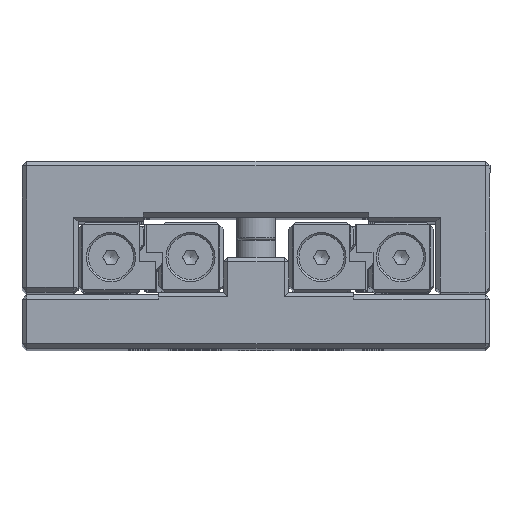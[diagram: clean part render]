
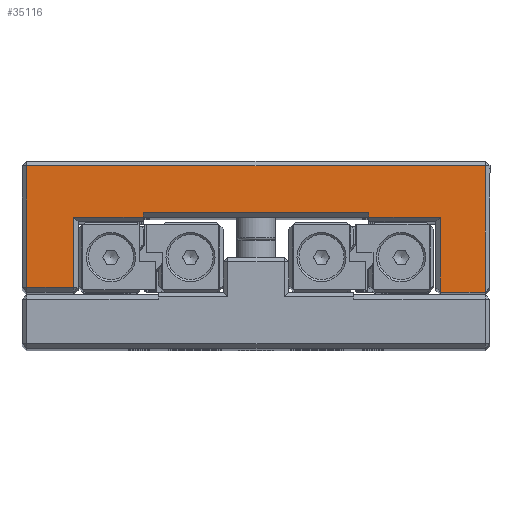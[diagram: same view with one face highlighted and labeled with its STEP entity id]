
A CAD part, top view. The second image highlights one B-rep face of the part: STEP entity #35116.
In plain terms, the highlighted planar face has unit normal (0, 0, 1).
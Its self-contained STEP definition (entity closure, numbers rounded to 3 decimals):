
#2067=PLANE('',#37890);
#3925=FACE_OUTER_BOUND('',#5999,.T.);
#5999=EDGE_LOOP('',(#28585,#28586,#28587,#28588,#28589,#28590,#28591,#28592,
#28593,#28594,#28595,#28596));
#8514=LINE('',#54323,#11668);
#8571=LINE('',#54711,#11725);
#8632=LINE('',#55129,#11786);
#8728=LINE('',#55440,#11882);
#8732=LINE('',#55448,#11886);
#8741=LINE('',#55463,#11895);
#8745=LINE('',#55471,#11899);
#8760=LINE('',#55497,#11914);
#8763=LINE('',#55501,#11917);
#8782=LINE('',#55540,#11936);
#8785=LINE('',#55545,#11939);
#8786=LINE('',#55546,#11940);
#11668=VECTOR('',#43594,10.);
#11725=VECTOR('',#44013,10.);
#11786=VECTOR('',#44326,10.);
#11882=VECTOR('',#44566,10.);
#11886=VECTOR('',#44574,10.);
#11895=VECTOR('',#44589,10.);
#11899=VECTOR('',#44595,10.);
#11914=VECTOR('',#44620,10.);
#11917=VECTOR('',#44625,10.);
#11936=VECTOR('',#44678,10.);
#11939=VECTOR('',#44685,10.);
#11940=VECTOR('',#44686,10.);
#15850=VERTEX_POINT('',#54319);
#15852=VERTEX_POINT('',#54322);
#15985=VERTEX_POINT('',#54707);
#15987=VERTEX_POINT('',#54710);
#16110=VERTEX_POINT('',#55118);
#16113=VERTEX_POINT('',#55127);
#16208=VERTEX_POINT('',#55439);
#16209=VERTEX_POINT('',#55446);
#16210=VERTEX_POINT('',#55447);
#16213=VERTEX_POINT('',#55462);
#16216=VERTEX_POINT('',#55469);
#16222=VERTEX_POINT('',#55495);
#20044=EDGE_CURVE('',#15852,#15850,#8514,.T.);
#20226=EDGE_CURVE('',#15987,#15985,#8571,.T.);
#20405=EDGE_CURVE('',#16110,#16113,#8632,.T.);
#20536=EDGE_CURVE('',#15852,#16208,#8728,.T.);
#20540=EDGE_CURVE('',#16209,#16210,#8732,.T.);
#20549=EDGE_CURVE('',#16210,#16213,#8741,.T.);
#20553=EDGE_CURVE('',#16216,#15850,#8745,.T.);
#20568=EDGE_CURVE('',#16222,#16216,#8760,.T.);
#20571=EDGE_CURVE('',#16213,#16222,#8763,.T.);
#20590=EDGE_CURVE('',#15987,#16113,#8782,.T.);
#20593=EDGE_CURVE('',#16110,#16209,#8785,.T.);
#20594=EDGE_CURVE('',#16208,#15985,#8786,.T.);
#28585=ORIENTED_EDGE('',*,*,#20593,.F.);
#28586=ORIENTED_EDGE('',*,*,#20405,.T.);
#28587=ORIENTED_EDGE('',*,*,#20590,.F.);
#28588=ORIENTED_EDGE('',*,*,#20226,.T.);
#28589=ORIENTED_EDGE('',*,*,#20594,.F.);
#28590=ORIENTED_EDGE('',*,*,#20536,.F.);
#28591=ORIENTED_EDGE('',*,*,#20044,.T.);
#28592=ORIENTED_EDGE('',*,*,#20553,.F.);
#28593=ORIENTED_EDGE('',*,*,#20568,.F.);
#28594=ORIENTED_EDGE('',*,*,#20571,.F.);
#28595=ORIENTED_EDGE('',*,*,#20549,.F.);
#28596=ORIENTED_EDGE('',*,*,#20540,.F.);
#35116=ADVANCED_FACE('',(#3925),#2067,.T.);
#37890=AXIS2_PLACEMENT_3D('',#55544,#44683,#44684);
#43594=DIRECTION('',(1.,0.,0.));
#44013=DIRECTION('',(0.,-1.,0.));
#44326=DIRECTION('',(0.,1.,0.));
#44566=DIRECTION('',(0.,1.,0.));
#44574=DIRECTION('',(0.,-1.,0.));
#44589=DIRECTION('',(-1.,0.,0.));
#44595=DIRECTION('',(0.,-1.,0.));
#44620=DIRECTION('',(1.,0.,0.));
#44625=DIRECTION('',(0.,1.,0.));
#44678=DIRECTION('',(-1.,0.,0.));
#44683=DIRECTION('center_axis',(0.,0.,
1.));
#44684=DIRECTION('ref_axis',(1.,0.,0.));
#44685=DIRECTION('',(-1.,0.,0.));
#44686=DIRECTION('',(-1.,0.,0.));
#54319=CARTESIAN_POINT('',(19.869,67.583,114.133));
#54322=CARTESIAN_POINT('',(10.269,67.583,114.133));
#54323=CARTESIAN_POINT('',(9.269,67.583,114.133));
#54707=CARTESIAN_POINT('',(-5.031,83.583,114.133));
#54710=CARTESIAN_POINT('',(-5.031,84.583,114.133));
#54711=CARTESIAN_POINT('',(-5.031,83.583,114.133));
#55118=CARTESIAN_POINT('',(-53.231,83.583,114.133));
#55127=CARTESIAN_POINT('',(-53.231,84.583,114.133));
#55129=CARTESIAN_POINT('',(-53.231,82.583,114.133));
#55439=CARTESIAN_POINT('',(10.269,83.583,114.133));
#55440=CARTESIAN_POINT('',(10.269,82.083,114.133));
#55446=CARTESIAN_POINT('',(-68.131,83.583,114.133));
#55447=CARTESIAN_POINT('',(-68.131,68.583,114.133));
#55448=CARTESIAN_POINT('',(-68.131,74.583,114.133));
#55462=CARTESIAN_POINT('',(-78.131,68.583,114.133));
#55463=CARTESIAN_POINT('',(-54.131,68.583,114.133));
#55469=CARTESIAN_POINT('',(19.869,94.583,114.133));
#55471=CARTESIAN_POINT('',(19.869,74.583,114.133));
#55495=CARTESIAN_POINT('',(-78.131,94.583,114.133));
#55497=CARTESIAN_POINT('',(-4.131,94.583,114.133));
#55501=CARTESIAN_POINT('',(-78.131,88.583,114.133));
#55540=CARTESIAN_POINT('',(-41.181,84.583,114.133));
#55544=CARTESIAN_POINT('Origin',(-29.131,81.583,114.133));
#55545=CARTESIAN_POINT('',(-48.131,83.583,114.133));
#55546=CARTESIAN_POINT('',(-17.081,83.583,114.133));
